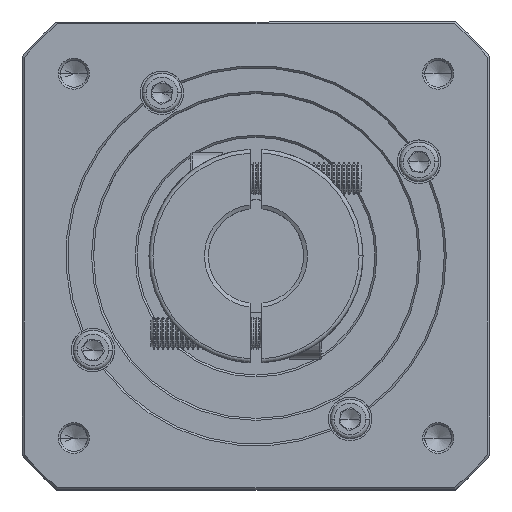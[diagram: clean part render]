
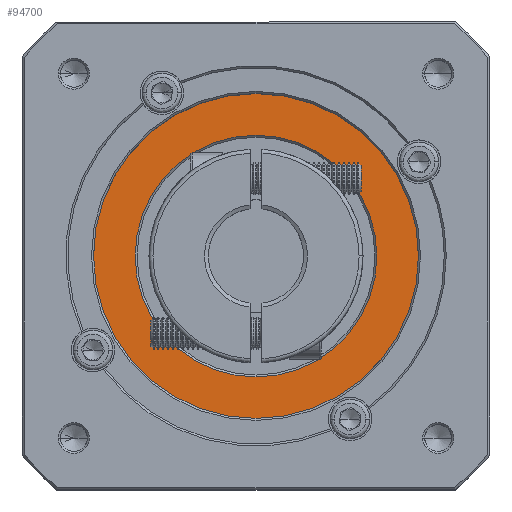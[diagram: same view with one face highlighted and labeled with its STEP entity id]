
A CAD part, top view. The second image highlights one B-rep face of the part: STEP entity #94700.
In plain terms, the highlighted planar face has unit normal (0, 0, 1).
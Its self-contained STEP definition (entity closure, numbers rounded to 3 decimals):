
#2595 = EDGE_CURVE ( 'NONE', #75082, #48396, #23364, .T. ) ;
#4429 = DIRECTION ( 'NONE',  ( 1., 0., 0. ) ) ;
#4661 = CIRCLE ( 'NONE', #70564, 30.5 ) ;
#5392 = DIRECTION ( 'NONE',  ( 0., 0., 1. ) ) ;
#5536 = CIRCLE ( 'NONE', #64771, 30.5 ) ;
#10617 = ORIENTED_EDGE ( 'NONE', *, *, #66940, .T. ) ;
#13865 = CARTESIAN_POINT ( 'NONE',  ( -118.633, 60.83, 5.512 ) ) ;
#17648 = DIRECTION ( 'NONE',  ( 0., -1., 0. ) ) ;
#20090 = AXIS2_PLACEMENT_3D ( 'NONE', #108973, #5392, #118413 ) ;
#23364 = CIRCLE ( 'NONE', #118410, 41. ) ;
#30613 = DIRECTION ( 'NONE',  ( 0., 0., -1. ) ) ;
#34634 = AXIS2_PLACEMENT_3D ( 'NONE', #13865, #77932, #4429 ) ;
#37034 = DIRECTION ( 'NONE',  ( 0., 0., 1. ) ) ;
#40365 = VERTEX_POINT ( 'NONE', #121343 ) ;
#46461 = CARTESIAN_POINT ( 'NONE',  ( -118.633, 60.83, 5.512 ) ) ;
#48396 = VERTEX_POINT ( 'NONE', #108976 ) ;
#49878 = DIRECTION ( 'NONE',  ( 0., -1., 0. ) ) ;
#50563 = ORIENTED_EDGE ( 'NONE', *, *, #92008, .T. ) ;
#61214 = FACE_OUTER_BOUND ( 'NONE', #63181, .T. ) ;
#63181 = EDGE_LOOP ( 'NONE', ( #50563, #113704 ) ) ;
#64771 = AXIS2_PLACEMENT_3D ( 'NONE', #106292, #30613, #49878 ) ;
#66940 = EDGE_CURVE ( 'NONE', #40365, #86735, #5536, .T. ) ;
#70564 = AXIS2_PLACEMENT_3D ( 'NONE', #110991, #93287, #17648 ) ;
#74326 = CARTESIAN_POINT ( 'NONE',  ( -118.633, 30.33, 5.512 ) ) ;
#75082 = VERTEX_POINT ( 'NONE', #97283 ) ;
#77932 = DIRECTION ( 'NONE',  ( 0., 0., 1. ) ) ;
#81396 = CIRCLE ( 'NONE', #20090, 41. ) ;
#82362 = ORIENTED_EDGE ( 'NONE', *, *, #106668, .T. ) ;
#86735 = VERTEX_POINT ( 'NONE', #74326 ) ;
#92008 = EDGE_CURVE ( 'NONE', #48396, #75082, #81396, .T. ) ;
#93287 = DIRECTION ( 'NONE',  ( 0., 0., -1. ) ) ;
#94700 = ADVANCED_FACE ( 'NONE', ( #61214, #115687 ), #118019, .T. ) ;
#97283 = CARTESIAN_POINT ( 'NONE',  ( -159.633, 60.83, 5.512 ) ) ;
#104638 = EDGE_LOOP ( 'NONE', ( #82362, #10617 ) ) ;
#106292 = CARTESIAN_POINT ( 'NONE',  ( -118.633, 60.83, 5.512 ) ) ;
#106668 = EDGE_CURVE ( 'NONE', #86735, #40365, #4661, .T. ) ;
#108973 = CARTESIAN_POINT ( 'NONE',  ( -118.633, 60.83, 5.512 ) ) ;
#108976 = CARTESIAN_POINT ( 'NONE',  ( -77.633, 60.83, 5.512 ) ) ;
#110991 = CARTESIAN_POINT ( 'NONE',  ( -118.633, 60.83, 5.512 ) ) ;
#113704 = ORIENTED_EDGE ( 'NONE', *, *, #2595, .T. ) ;
#115687 = FACE_BOUND ( 'NONE', #104638, .T. ) ;
#118019 = PLANE ( 'NONE',  #34634 ) ;
#118410 = AXIS2_PLACEMENT_3D ( 'NONE', #46461, #37034, #121409 ) ;
#118413 = DIRECTION ( 'NONE',  ( 1., 0., 0. ) ) ;
#121343 = CARTESIAN_POINT ( 'NONE',  ( -118.633, 91.33, 5.512 ) ) ;
#121409 = DIRECTION ( 'NONE',  ( 1., 0., 0. ) ) ;
